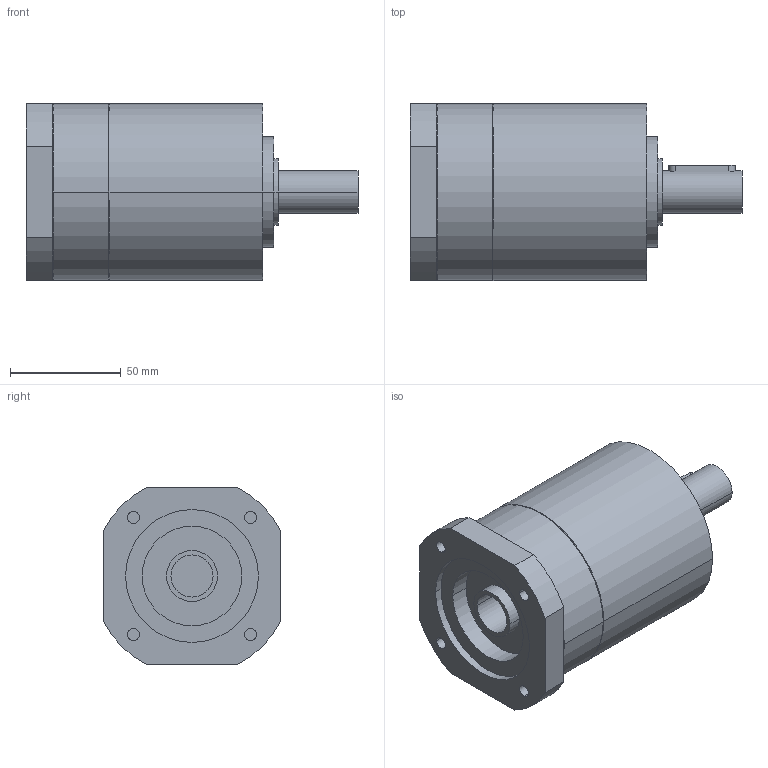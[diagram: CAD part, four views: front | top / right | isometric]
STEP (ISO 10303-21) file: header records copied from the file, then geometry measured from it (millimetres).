
FILE_DESCRIPTION(('CoCreate Modeling STEP Export'),'2;1');
FILE_NAME('GPR100_ig-3-4-5-6_19_B14_19_P03.stp','2014-08-26T10:08:32',(''),(''),'CoCreate Modeling STEP processor for AP214 (Solid Model)','CoCreate Modeling 16.00C 25-Feb-2009 (C) Parametric Technology GmbH','');
FILE_SCHEMA(('AUTOMOTIVE_DESIGN { 1 0 10303 214 1 1 1 1 }'));
Length unit declared in the file: millimetre
Products named in the file (2): GPR100_ig-3-4-5-6_19_B14_19_P03
Assembly tree (1 placements, depth 2):
  GPR100_ig-3-4-5-6_19_B14_19_P03
    GPR100_ig-3-4-5-6_19_B14_19_P03
Bounding box: 150 x 80 x 80 mm (x, y, z)
Volume: 533839.3 mm3; surface area: 49609.3 mm2
Topology: 1 solids, 1 shells, 86 faces, 234 edges, 162 vertices
Faces by surface type: cylinder 50, plane 30, cone 6
Entity records: 2322 total; most frequent: ORIENTED_EDGE 464, CARTESIAN_POINT 419, DIRECTION 312, EDGE_CURVE 232, VERTEX_POINT 162, AXIS2_PLACEMENT_3D 119, EDGE_LOOP 108, FACE_OUTER_BOUND 86
